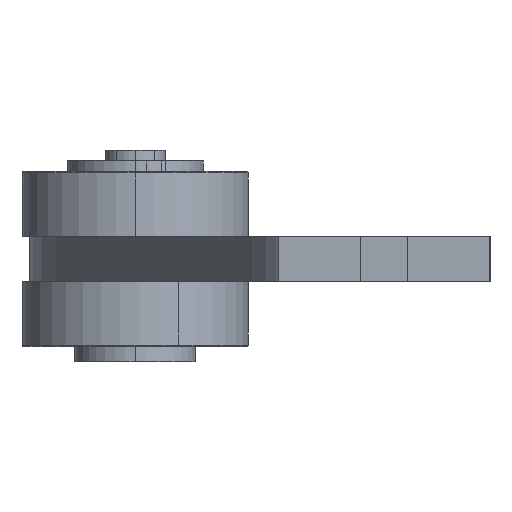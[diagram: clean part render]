
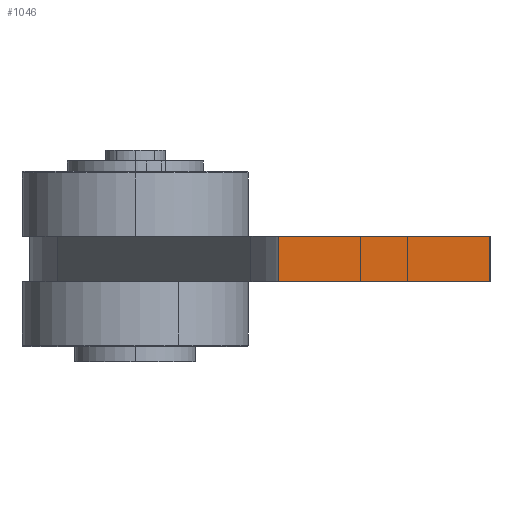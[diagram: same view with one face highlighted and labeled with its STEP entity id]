
A CAD part, left-side view. The second image highlights one B-rep face of the part: STEP entity #1046.
In plain terms, the highlighted planar face has unit normal (-1, 0, 0).
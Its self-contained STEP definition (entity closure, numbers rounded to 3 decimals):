
#50 = DIRECTION ( 'NONE',  ( 0., 0., 1. ) ) ;
#95 = CARTESIAN_POINT ( 'NONE',  ( -1000., -9.5, -3. ) ) ;
#153 = VECTOR ( 'NONE', #50, 1000. ) ;
#281 = DIRECTION ( 'NONE',  ( 0., -1., 0. ) ) ;
#305 = LINE ( 'NONE', #1209, #523 ) ;
#327 = DIRECTION ( 'NONE',  ( 0., 0., 1. ) ) ;
#338 = VERTEX_POINT ( 'NONE', #1712 ) ;
#360 = LINE ( 'NONE', #454, #1847 ) ;
#432 = FACE_OUTER_BOUND ( 'NONE', #1499, .T. ) ;
#448 = VECTOR ( 'NONE', #281, 1000. ) ;
#454 = CARTESIAN_POINT ( 'NONE',  ( -1000., -9.5, 0. ) ) ;
#523 = VECTOR ( 'NONE', #327, 1000. ) ;
#530 = DIRECTION ( 'NONE',  ( -1., 0., 0. ) ) ;
#536 = EDGE_CURVE ( 'NONE', #657, #338, #360, .T. ) ;
#560 = ORIENTED_EDGE ( 'NONE', *, *, #1278, .T. ) ;
#618 = DIRECTION ( 'NONE',  ( 0., -1., 0. ) ) ;
#648 = VERTEX_POINT ( 'NONE', #1033 ) ;
#657 = VERTEX_POINT ( 'NONE', #1304 ) ;
#704 = AXIS2_PLACEMENT_3D ( 'NONE', #862, #530, #1614 ) ;
#840 = CARTESIAN_POINT ( 'NONE',  ( -1000., -23.5, -3. ) ) ;
#862 = CARTESIAN_POINT ( 'NONE',  ( -1000., -9.5, -3. ) ) ;
#993 = ORIENTED_EDGE ( 'NONE', *, *, #1243, .F. ) ;
#1027 = PLANE ( 'NONE',  #704 ) ;
#1033 = CARTESIAN_POINT ( 'NONE',  ( -1000., -9.5, -3. ) ) ;
#1046 = ADVANCED_FACE ( 'NONE', ( #432 ), #1027, .T. ) ;
#1209 = CARTESIAN_POINT ( 'NONE',  ( -1000., -23.5, -3. ) ) ;
#1243 = EDGE_CURVE ( 'NONE', #648, #657, #1607, .T. ) ;
#1249 = LINE ( 'NONE', #95, #448 ) ;
#1278 = EDGE_CURVE ( 'NONE', #1581, #338, #305, .T. ) ;
#1304 = CARTESIAN_POINT ( 'NONE',  ( -1000., -9.5, 0. ) ) ;
#1499 = EDGE_LOOP ( 'NONE', ( #1832, #993, #1600, #560 ) ) ;
#1581 = VERTEX_POINT ( 'NONE', #840 ) ;
#1600 = ORIENTED_EDGE ( 'NONE', *, *, #1813, .T. ) ;
#1607 = LINE ( 'NONE', #1779, #153 ) ;
#1614 = DIRECTION ( 'NONE',  ( 0., 0., 1. ) ) ;
#1712 = CARTESIAN_POINT ( 'NONE',  ( -1000., -23.5, 0. ) ) ;
#1779 = CARTESIAN_POINT ( 'NONE',  ( -1000., -9.5, -3. ) ) ;
#1813 = EDGE_CURVE ( 'NONE', #648, #1581, #1249, .T. ) ;
#1832 = ORIENTED_EDGE ( 'NONE', *, *, #536, .F. ) ;
#1847 = VECTOR ( 'NONE', #618, 1000. ) ;
